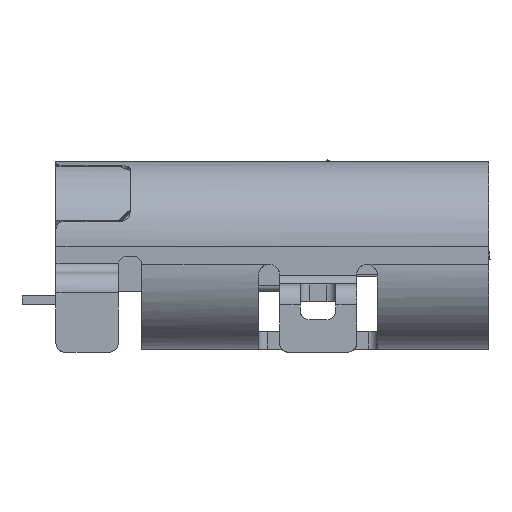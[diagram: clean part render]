
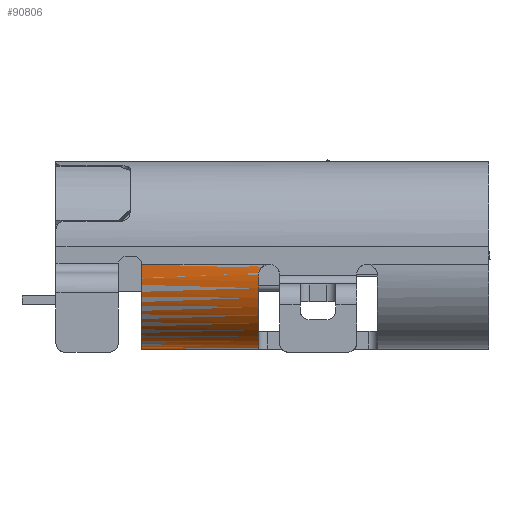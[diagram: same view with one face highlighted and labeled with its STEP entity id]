
A CAD part, left-side view. The second image highlights one B-rep face of the part: STEP entity #90806.
In plain terms, the highlighted cylindrical face has radius 1.43 mm (diameter 2.86 mm), a partial arc.
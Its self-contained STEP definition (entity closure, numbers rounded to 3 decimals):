
#6649 = VERTEX_POINT ( 'NONE', #84838 ) ;
#8110 = ORIENTED_EDGE ( 'NONE', *, *, #115354, .T. ) ;
#8442 = CARTESIAN_POINT ( 'NONE',  ( -3.04, 4.182, 2.43 ) ) ;
#10606 = EDGE_CURVE ( 'NONE', #69327, #31170, #40641, .T. ) ;
#10882 = CARTESIAN_POINT ( 'NONE',  ( -4.47, 6.37, 2.42 ) ) ;
#11676 = CARTESIAN_POINT ( 'NONE',  ( -4.465, 4.4, 2.303 ) ) ;
#12739 = EDGE_CURVE ( 'NONE', #31170, #80819, #77447, .T. ) ;
#14422 = CARTESIAN_POINT ( 'NONE',  ( -3.226, 6.37, 1. ) ) ;
#17155 = CARTESIAN_POINT ( 'NONE',  ( -3.04, 6.37, 1. ) ) ;
#19654 = ORIENTED_EDGE ( 'NONE', *, *, #12739, .T. ) ;
#19912 = CARTESIAN_POINT ( 'NONE',  ( -4.47, 6.37, 2.43 ) ) ;
#21314 = CARTESIAN_POINT ( 'NONE',  ( -4.468, 4.383, 2.344 ) ) ;
#23795 = CARTESIAN_POINT ( 'NONE',  ( -3.04, 4.4, 1. ) ) ;
#25181 = EDGE_CURVE ( 'NONE', #47078, #69327, #101755, .T. ) ;
#27395 = CARTESIAN_POINT ( 'NONE',  ( -4.47, 6.37, 2.42 ) ) ;
#30749 = CARTESIAN_POINT ( 'NONE',  ( -4.47, 6.37, 2.427 ) ) ;
#31170 = VERTEX_POINT ( 'NONE', #27395 ) ;
#32507 = CARTESIAN_POINT ( 'NONE',  ( -3.757, 6.37, 1.179 ) ) ;
#33020 = CARTESIAN_POINT ( 'NONE',  ( -4.47, 4.225, 2.43 ) ) ;
#33435 = CARTESIAN_POINT ( 'NONE',  ( -3.385, 4.4, 1.032 ) ) ;
#33612 = CARTESIAN_POINT ( 'NONE',  ( -4.47, 5.655, 2.43 ) ) ;
#38224 = CARTESIAN_POINT ( 'NONE',  ( -4.47, 4.315, 2.413 ) ) ;
#38812 = CARTESIAN_POINT ( 'NONE',  ( -4.47, 4.225, 2.43 ) ) ;
#40641 = B_SPLINE_CURVE_WITH_KNOTS ( 'NONE', 3,
 ( #19912, #30749, #66911, #10882 ),
 .UNSPECIFIED., .F., .F.,
 ( 4, 4 ),
 ( 0., 1. ),
 .UNSPECIFIED. ) ;
#41467 = CARTESIAN_POINT ( 'NONE',  ( -4.47, 4.94, 2.43 ) ) ;
#41553 = CARTESIAN_POINT ( 'NONE',  ( -4.286, 6.37, 1.704 ) ) ;
#41904 = CARTESIAN_POINT ( 'NONE',  ( -3.708, 4.4, 1.154 ) ) ;
#42496 = CARTESIAN_POINT ( 'NONE',  ( -4.459, 4.4, 2.255 ) ) ;
#44314 = CARTESIAN_POINT ( 'NONE',  ( -3.04, 5.713, 1. ) ) ;
#45219 = DIRECTION ( 'NONE',  ( 0., 1., 0. ) ) ;
#47078 = VERTEX_POINT ( 'NONE', #76264 ) ;
#48573 = ORIENTED_EDGE ( 'NONE', *, *, #84187, .T. ) ;
#48849 = ORIENTED_EDGE ( 'NONE', *, *, #79818, .T. ) ;
#53659 = ORIENTED_EDGE ( 'NONE', *, *, #10606, .T. ) ;
#53943 = CARTESIAN_POINT ( 'NONE',  ( -3.04, 4.4, 1. ) ) ;
#58787 = CARTESIAN_POINT ( 'NONE',  ( -3.04, 6.37, 1. ) ) ;
#60562 = CARTESIAN_POINT ( 'NONE',  ( -3.858, 4.4, 1.244 ) ) ;
#60824 = CARTESIAN_POINT ( 'NONE',  ( -3.915, 6.37, 1.284 ) ) ;
#61412 = CARTESIAN_POINT ( 'NONE',  ( -4.18, 6.37, 1.547 ) ) ;
#66911 = CARTESIAN_POINT ( 'NONE',  ( -4.47, 6.37, 2.423 ) ) ;
#69327 = VERTEX_POINT ( 'NONE', #103927 ) ;
#70816 = AXIS2_PLACEMENT_3D ( 'NONE', #8442, #45219, #81955 ) ;
#76264 = CARTESIAN_POINT ( 'NONE',  ( -4.47, 4.225, 2.43 ) ) ;
#76754 = CARTESIAN_POINT ( 'NONE',  ( -4.47, 4.271, 2.43 ) ) ;
#76863 = CARTESIAN_POINT ( 'NONE',  ( -3.04, 4.4, 1. ) ) ;
#77447 = B_SPLINE_CURVE_WITH_KNOTS ( 'NONE', 3,
 ( #80667, #78904, #88533, #41553, #61412, #60824, #32507, #115016, #14422, #80082 ),
 .UNSPECIFIED., .F., .F.,
 ( 4, 2, 2, 2, 4 ),
 ( 0., 0.25, 0.5, 0.75, 1. ),
 .UNSPECIFIED. ) ;
#78904 = CARTESIAN_POINT ( 'NONE',  ( -4.469, 6.37, 2.234 ) ) ;
#78916 = VERTEX_POINT ( 'NONE', #76863 ) ;
#79035 = EDGE_LOOP ( 'NONE', ( #96918, #53659, #19654, #48573, #48849, #8110 ) ) ;
#79818 = EDGE_CURVE ( 'NONE', #78916, #6649, #106096, .T. ) ;
#80082 = CARTESIAN_POINT ( 'NONE',  ( -3.04, 6.37, 1. ) ) ;
#80667 = CARTESIAN_POINT ( 'NONE',  ( -4.47, 6.37, 2.42 ) ) ;
#80819 = VERTEX_POINT ( 'NONE', #58787 ) ;
#81023 = CARTESIAN_POINT ( 'NONE',  ( -3.04, 5.057, 1. ) ) ;
#81223 = B_SPLINE_CURVE_WITH_KNOTS ( 'NONE', 3,
 ( #94238, #11676, #21314, #38224, #76754, #38812 ),
 .UNSPECIFIED., .F., .F.,
 ( 4, 2, 4 ),
 ( 0., 0.5, 1. ),
 .UNSPECIFIED. ) ;
#81955 = DIRECTION ( 'NONE',  ( -1., 0., 0. ) ) ;
#84187 = EDGE_CURVE ( 'NONE', #80819, #78916, #119162, .T. ) ;
#84838 = CARTESIAN_POINT ( 'NONE',  ( -4.459, 4.4, 2.255 ) ) ;
#88533 = CARTESIAN_POINT ( 'NONE',  ( -4.43, 6.37, 2.048 ) ) ;
#90806 = ADVANCED_FACE ( 'NONE', ( #109062 ), #91000, .T. ) ;
#91000 = CYLINDRICAL_SURFACE ( 'NONE', #70816, 1.43 ) ;
#94238 = CARTESIAN_POINT ( 'NONE',  ( -4.459, 4.4, 2.255 ) ) ;
#96918 = ORIENTED_EDGE ( 'NONE', *, *, #25181, .T. ) ;
#97331 = CARTESIAN_POINT ( 'NONE',  ( -4.438, 4.4, 2.084 ) ) ;
#97929 = CARTESIAN_POINT ( 'NONE',  ( -4.117, 4.4, 1.473 ) ) ;
#101755 = B_SPLINE_CURVE_WITH_KNOTS ( 'NONE', 3,
 ( #33020, #41467, #33612, #115527 ),
 .UNSPECIFIED., .F., .F.,
 ( 4, 4 ),
 ( 0., 1. ),
 .UNSPECIFIED. ) ;
#103927 = CARTESIAN_POINT ( 'NONE',  ( -4.47, 6.37, 2.43 ) ) ;
#105728 = CARTESIAN_POINT ( 'NONE',  ( -4.386, 4.4, 1.916 ) ) ;
#106096 = B_SPLINE_CURVE_WITH_KNOTS ( 'NONE', 3,
 ( #23795, #114762, #33435, #41904, #60562, #97929, #106922, #105728, #97331, #42496 ),
 .UNSPECIFIED., .F., .F.,
 ( 4, 2, 2, 2, 4 ),
 ( 0., 0.25, 0.5, 0.75, 1. ),
 .UNSPECIFIED. ) ;
#106922 = CARTESIAN_POINT ( 'NONE',  ( -4.225, 4.4, 1.611 ) ) ;
#109062 = FACE_OUTER_BOUND ( 'NONE', #79035, .T. ) ;
#114762 = CARTESIAN_POINT ( 'NONE',  ( -3.213, 4.4, 1. ) ) ;
#115016 = CARTESIAN_POINT ( 'NONE',  ( -3.413, 6.37, 1.037 ) ) ;
#115354 = EDGE_CURVE ( 'NONE', #6649, #47078, #81223, .T. ) ;
#115527 = CARTESIAN_POINT ( 'NONE',  ( -4.47, 6.37, 2.43 ) ) ;
#119162 = B_SPLINE_CURVE_WITH_KNOTS ( 'NONE', 3,
 ( #17155, #44314, #81023, #53943 ),
 .UNSPECIFIED., .F., .F.,
 ( 4, 4 ),
 ( 0., 1. ),
 .UNSPECIFIED. ) ;
